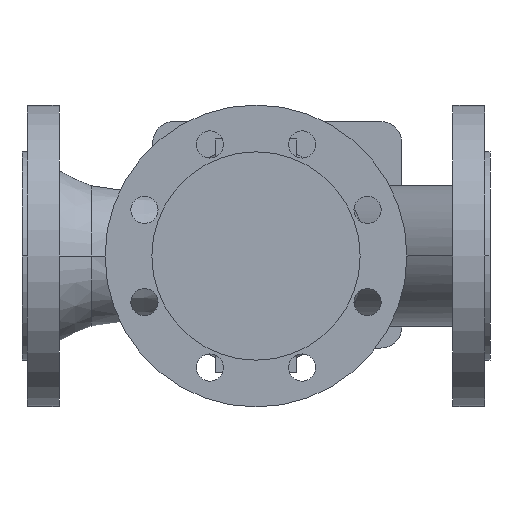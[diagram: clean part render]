
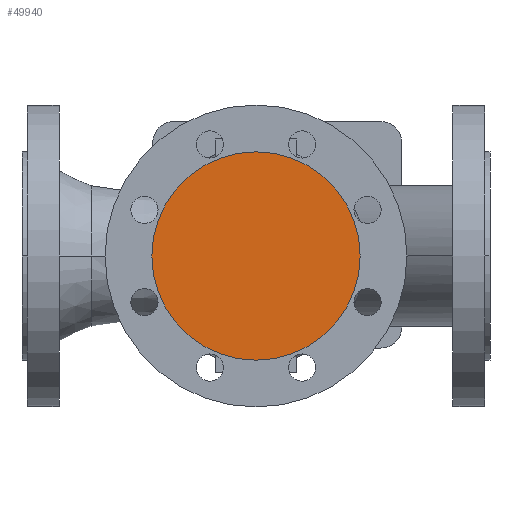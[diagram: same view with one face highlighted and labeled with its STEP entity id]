
A CAD part, front view. The second image highlights one B-rep face of the part: STEP entity #49940.
In plain terms, the highlighted planar face has unit normal (0, -1, 0).
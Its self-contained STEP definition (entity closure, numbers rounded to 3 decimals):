
#5630=CARTESIAN_POINT('',(86.,-130.,0.));
#5640=VERTEX_POINT('',#5630);
#5800=CARTESIAN_POINT('',(224.,-130.,0.));
#5810=VERTEX_POINT('',#5800);
#5840=CARTESIAN_POINT('',(155.,-130.,0.));
#5850=DIRECTION('',(0.,1.,0.));
#5860=DIRECTION('',(1.,0.,0.));
#5870=AXIS2_PLACEMENT_3D('',#5840,#5850,#5860);
#5880=CIRCLE('',#5870,69.);
#5890=EDGE_CURVE('',#5640,#5810,#5880,.T.);
#49840=CARTESIAN_POINT('',(189.5,-130.,0.));
#49850=DIRECTION('',(0.,-1.,0.));
#49860=DIRECTION('',(-1.,0.,0.));
#49870=AXIS2_PLACEMENT_3D('',#49840,#49850,#49860);
#49880=PLANE('',#49870);
#49890=EDGE_CURVE('',#5810,#5640,#5880,.T.);
#49900=ORIENTED_EDGE('',*,*,#49890,.F.);
#49910=ORIENTED_EDGE('',*,*,#5890,.F.);
#49920=EDGE_LOOP('',(#49910,#49900));
#49930=FACE_OUTER_BOUND('',#49920,.T.);
#49940=ADVANCED_FACE('',(#49930),#49880,.T.);
